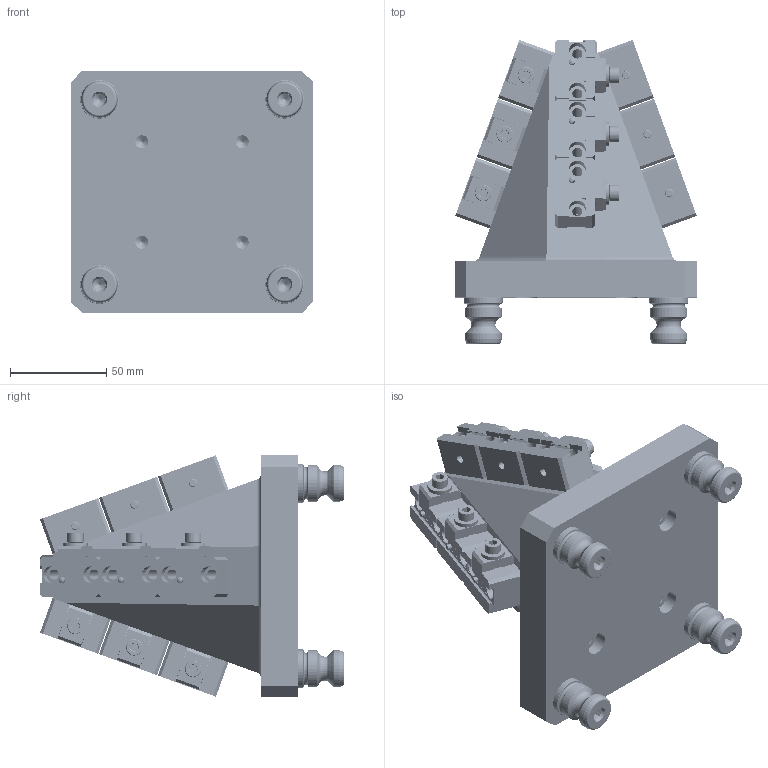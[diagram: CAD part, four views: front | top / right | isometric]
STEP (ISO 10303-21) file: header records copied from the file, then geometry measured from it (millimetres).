
FILE_DESCRIPTION (( 'STEP AP214' ), '1' );
FILE_NAME ('R96-P12DM12.STEP', '2019-05-12T20:01:28', ( '' ), ( '' ), 'SwSTEP 2.0', 'SolidWorks 2018', '' );
FILE_SCHEMA (( 'AUTOMOTIVE_DESIGN' ));
Length unit declared in the file: millimetre
Products named in the file (12): PS20F; 39874.CPSS_91390A162; PS20F-1_HARD TURN; DM12; 76124_91290A242; 91595A108_METRIC ALLOY STEEL DOWEL PIN_91595A108; 91595A100_METRIC ALLOY STEEL DOWEL PIN_91595A100; HW.0203X0500.FW_DEFAULT; CLW10M_CLW10; DM12-1_D051251WM; P12DM12; R96-P12DM12
Assembly tree (26 placements, depth 3):
  R96-P12DM12
    P12DM12
    DM12  x12
      DM12-1_D051251WM
      CLW10M_CLW10
      HW.0203X0500.FW_DEFAULT
      91595A100_METRIC ALLOY STEEL DOWEL PIN_91595A100
      91595A108_METRIC ALLOY STEEL DOWEL PIN_91595A108
      76124_91290A242
    PS20F  x4
      PS20F-1_HARD TURN
      39874.CPSS_91390A162
Bounding box: 125.73 x 157.5 x 125.73 mm (x, y, z)
Volume: 836144 mm3; surface area: 174951.2 mm2
Topology: 93 solids, 93 shells, 6612 faces, 17278 edges, 11272 vertices
Faces by surface type: plane 2824, cylinder 2282, bspline 780, cone 478, sphere 144, torus 104
Entity records: 40678 total; most frequent: CARTESIAN_POINT 13273, ORIENTED_EDGE 5138, DIRECTION 4949, EDGE_CURVE 2569, AXIS2_PLACEMENT_3D 1841, VERTEX_POINT 1670, LINE 1267, VECTOR 1267
